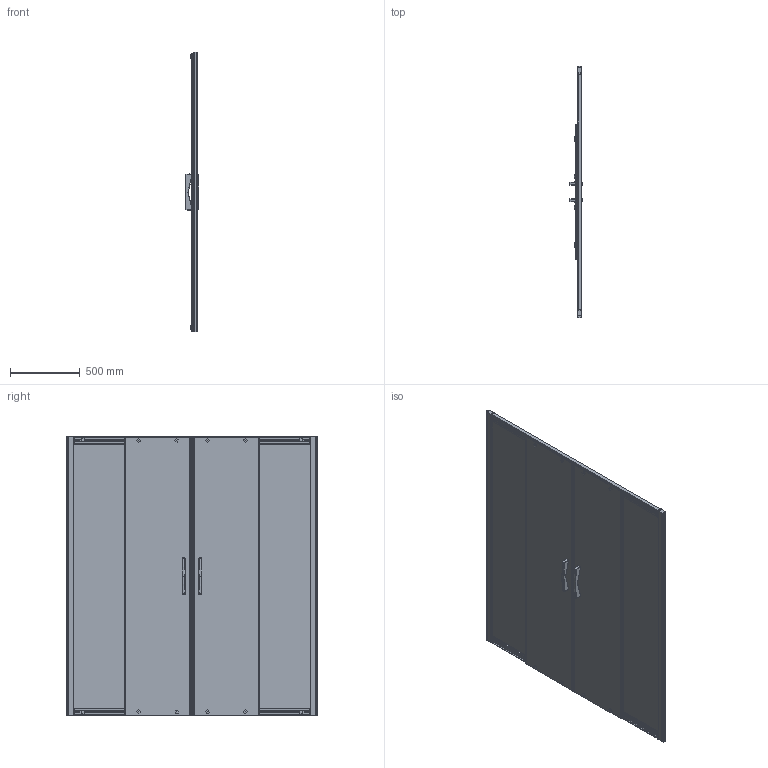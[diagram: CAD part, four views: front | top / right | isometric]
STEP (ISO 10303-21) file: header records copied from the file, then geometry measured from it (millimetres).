
FILE_DESCRIPTION(/* description */ (''),/* implementation_level */ '2;1');
FILE_NAME(/* name */ 'C:\4\! Кубеле\19\KÜBELE DE019D4\KÜBELE DE019D4-3D.stp',/* time_stamp */ '2019-06-17T12:45:04+03:00',/* author */ ('ChechurovS'),/* organization */ (''),/* preprocessor_version */ 'ST-DEVELOPER v15.2',/* originating_system */ 'Autodesk Inventor 2014',/* authorisation */ '');
FILE_SCHEMA (('CONFIG_CONTROL_DESIGN'));
Products named in the file (1): KÜBELE DE019D4-3D
Bounding box: 96.58 x 1800 x 2002.5 mm (x, y, z)
Topology: 1 solids, 100 shells, 2579 faces, 6639 edges, 4298 vertices
Faces by surface type: plane 1456, cylinder 679, bspline 192, torus 100, cone 96, sphere 56
Full cylindrical faces by diameter (mm): 3 x4, 3.7 x12, 8.4 x8, 9.5 x16, 10 x4, 13.2 x8, 14 x16, 16.5 x16, 18 x16, 19 x24, 22 x8, 28.7 x8, 30 x12
Entity records: 108422 total; most frequent: CARTESIAN_POINT 44353, ORIENTED_EDGE 12758, DIRECTION 12392, EDGE_CURVE 6371, AXIS2_PLACEMENT_3D 4274, VERTEX_POINT 4222, LINE 3844, VECTOR 3844
